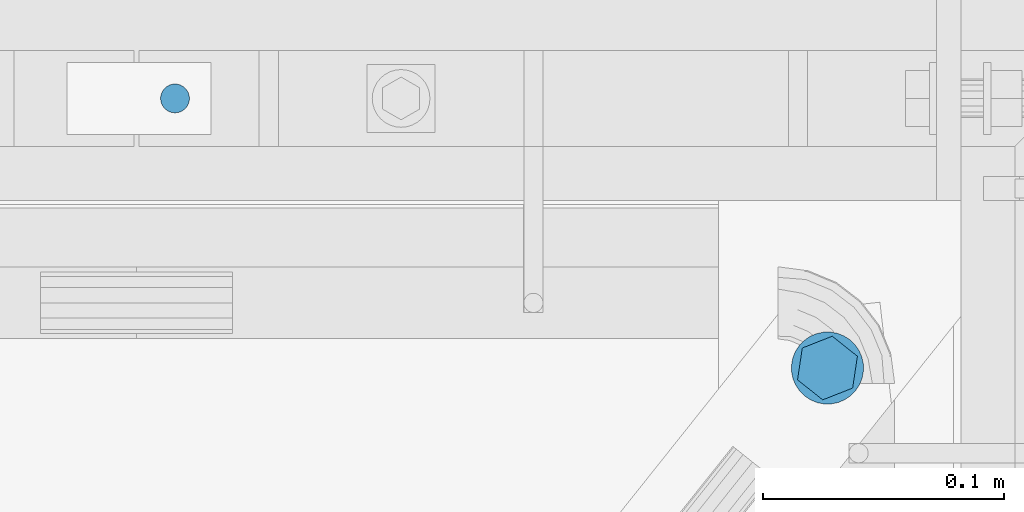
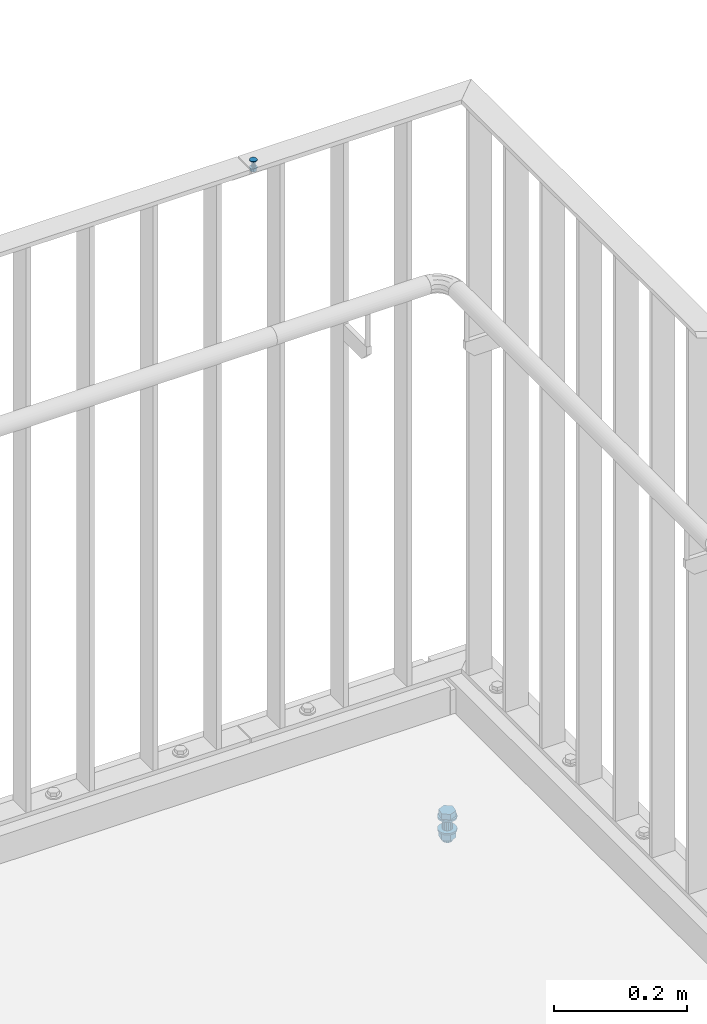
# One storey, part 131 of 145: 2 mechanical fasteners.
"""IFC2X3 building model written with IfcOpenShell, lengths in millimetres."""

from ifc_helpers import new_model, entity, si_unit, converted_unit, origin_with_axes, place, context, project, spatial, faceted_brep, element, save


model = new_model("IFC2X3")

# Units and contexts
model_context = context("Model", 3, precision=1e-09, world=origin_with_axes())
ifc_project = project(units=[si_unit("LENGTHUNIT", "METRE", prefix="MILLI"), si_unit("AREAUNIT", "SQUARE_METRE"), si_unit("VOLUMEUNIT", "CUBIC_METRE"), converted_unit("PLANEANGLEUNIT", "DEGREE", entity("IfcPlaneAngleMeasure", 0.01745329), si_unit("PLANEANGLEUNIT", "RADIAN"), dimensions=[0, 0, 0, 0, 0, 0, 0])], contexts=[model_context])

# Site, building, storey
site_placement = place(None, origin_with_axes())
site = spatial("IfcSite", under=ifc_project, at=site_placement, Name="BZ1 Grund- und Mittelschule 85716 Unterschlei?heim", CompositionType="ELEMENT")
building_placement = place(site_placement, origin_with_axes())
building = spatial("IfcBuilding", under=site, at=building_placement, Name="Struktur 1", CompositionType="ELEMENT")
storey_placement = place(building_placement, origin_with_axes())
storey = spatial("IfcBuildingStorey", under=building, at=storey_placement, Name="Default Storey", CompositionType="ELEMENT", Elevation=0.0)

# Mechanical fasteners
mechanical_fastener_1_placement = place(None, origin_with_axes())
element("IfcMechanicalFastener", 1, at=mechanical_fastener_1_placement, inside=storey, ObjectType="-", NominalDiameter=6.0, NominalLength=20.0, context=model_context, shape_type="Brep", body=[
    faceted_brep([(21244.141490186, -221.502, 2664.6363644), (21244.141490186, -221.502, 2663.6363644), (21242.970948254, -221.617288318, 2663.6363644), (21242.970948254, -221.617288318, 2664.6363644), (21241.845389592, -221.958722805, 2663.6363644), (21241.845389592, -221.958722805, 2664.6363644), (21240.808068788, -222.513182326, 2663.6363644), (21240.808068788, -222.513182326, 2664.6363644), (21239.898849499, -223.259359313, 2663.6363644), (21239.898849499, -223.259359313, 2664.6363644), (21239.152672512, -224.168578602, 2663.6363644), (21239.152672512, -224.168578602, 2664.6363644), (21238.598212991, -225.205899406, 2663.6363644), (21238.598212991, -225.205899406, 2664.6363644), (21238.256778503, -226.331458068, 2663.6363644), (21238.256778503, -226.331458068, 2664.6363644), (21238.141490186, -227.502, 2663.6363644), (21238.141490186, -227.502, 2664.6363644), (21238.256778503, -228.672541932, 2663.6363644), (21238.256778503, -228.672541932, 2664.6363644), (21238.598212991, -229.798100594, 2663.6363644), (21238.598212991, -229.798100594, 2664.6363644), (21239.152672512, -230.835421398, 2663.6363644), (21239.152672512, -230.835421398, 2664.6363644), (21239.898849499, -231.744640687, 2663.6363644), (21239.898849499, -231.744640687, 2664.6363644), (21240.808068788, -232.490817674, 2663.6363644), (21240.808068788, -232.490817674, 2664.6363644), (21241.845389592, -233.045277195, 2663.6363644), (21241.845389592, -233.045277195, 2664.6363644), (21242.970948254, -233.386711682, 2663.6363644), (21242.970948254, -233.386711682, 2664.6363644), (21244.141490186, -233.502, 2663.6363644), (21244.141490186, -233.502, 2664.6363644), (21245.312032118, -233.386711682, 2663.6363644), (21245.312032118, -233.386711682, 2664.6363644), (21246.43759078, -233.045277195, 2663.6363644), (21246.43759078, -233.045277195, 2664.6363644), (21247.474911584, -232.490817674, 2663.6363644), (21247.474911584, -232.490817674, 2664.6363644), (21248.384130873, -231.744640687, 2663.6363644), (21248.384130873, -231.744640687, 2664.6363644), (21249.13030786, -230.835421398, 2663.6363644), (21249.13030786, -230.835421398, 2664.6363644), (21249.684767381, -229.798100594, 2663.6363644), (21249.684767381, -229.798100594, 2664.6363644), (21250.026201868, -228.672541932, 2663.6363644), (21250.026201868, -228.672541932, 2664.6363644), (21250.141490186, -227.502, 2663.6363644), (21250.141490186, -227.502, 2664.6363644), (21250.026201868, -226.331458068, 2663.6363644), (21250.026201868, -226.331458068, 2664.6363644), (21249.684767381, -225.205899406, 2663.6363644), (21249.684767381, -225.205899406, 2664.6363644), (21249.13030786, -224.168578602, 2663.6363644), (21249.13030786, -224.168578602, 2664.6363644), (21248.384130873, -223.259359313, 2663.6363644), (21248.384130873, -223.259359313, 2664.6363644), (21247.474911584, -222.513182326, 2663.6363644), (21247.474911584, -222.513182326, 2664.6363644), (21246.43759078, -221.958722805, 2663.6363644), (21246.43759078, -221.958722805, 2664.6363644), (21245.312032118, -221.617288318, 2663.6363644), (21245.312032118, -221.617288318, 2664.6363644)], [[[0, 1, 2, 3]], [[3, 2, 4, 5]], [[5, 4, 6, 7]], [[7, 6, 8, 9]], [[9, 8, 10, 11]], [[11, 10, 12, 13]], [[13, 12, 14, 15]], [[15, 14, 16, 17]], [[17, 16, 18, 19]], [[19, 18, 20, 21]], [[21, 20, 22, 23]], [[23, 22, 24, 25]], [[25, 24, 26, 27]], [[27, 26, 28, 29]], [[29, 28, 30, 31]], [[31, 30, 32, 33]], [[33, 32, 34, 35]], [[35, 34, 36, 37]], [[37, 36, 38, 39]], [[39, 38, 40, 41]], [[41, 40, 42, 43]], [[43, 42, 44, 45]], [[45, 44, 46, 47]], [[47, 46, 48, 49]], [[49, 48, 50, 51]], [[51, 50, 52, 53]], [[53, 52, 54, 55]], [[55, 54, 56, 57]], [[57, 56, 58, 59]], [[59, 58, 60, 61]], [[61, 60, 62, 63]], [[63, 62, 1, 0]], [[0, 3, 5, 7, 9, 11, 13, 15, 17, 19, 21, 23, 25, 27, 29, 31, 33, 35, 37, 39, 41, 43, 45, 47, 49, 51, 53, 55, 57, 59, 61, 63]], [[1, 62, 60, 58, 56, 54, 52, 50, 48, 46, 44, 42, 40, 38, 36, 34, 32, 30, 28, 26, 24, 22, 20, 18, 16, 14, 12, 10, 8, 6, 4, 2]]]),
    faceted_brep([(21244.141490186, -224.502, 2663.6363644), (21244.141490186, -224.502, 2651.6363644), (21242.993439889, -224.730361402, 2651.6363644), (21242.993439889, -224.730361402, 2663.6363644), (21242.020169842, -225.380679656, 2651.6363644), (21242.020169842, -225.380679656, 2663.6363644), (21241.369851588, -226.353949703, 2651.6363644), (21241.369851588, -226.353949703, 2663.6363644), (21241.141490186, -227.502, 2651.6363644), (21241.141490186, -227.502, 2663.6363644), (21241.369851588, -228.650050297, 2651.6363644), (21241.369851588, -228.650050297, 2663.6363644), (21242.020169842, -229.623320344, 2651.6363644), (21242.020169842, -229.623320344, 2663.6363644), (21242.993439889, -230.273638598, 2651.6363644), (21242.993439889, -230.273638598, 2663.6363644), (21244.141490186, -230.502, 2651.6363644), (21244.141490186, -230.502, 2663.6363644), (21245.289540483, -230.273638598, 2651.6363644), (21245.289540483, -230.273638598, 2663.6363644), (21246.262810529, -229.623320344, 2651.6363644), (21246.262810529, -229.623320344, 2663.6363644), (21246.913128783, -228.650050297, 2651.6363644), (21246.913128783, -228.650050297, 2663.6363644), (21247.141490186, -227.502, 2651.6363644), (21247.141490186, -227.502, 2663.6363644), (21246.913128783, -226.353949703, 2651.6363644), (21246.913128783, -226.353949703, 2663.6363644), (21246.262810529, -225.380679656, 2651.6363644), (21246.262810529, -225.380679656, 2663.6363644), (21245.289540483, -224.730361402, 2651.6363644), (21245.289540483, -224.730361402, 2663.6363644)], [[[0, 1, 2, 3]], [[3, 2, 4, 5]], [[5, 4, 6, 7]], [[7, 6, 8, 9]], [[9, 8, 10, 11]], [[11, 10, 12, 13]], [[13, 12, 14, 15]], [[15, 14, 16, 17]], [[17, 16, 18, 19]], [[19, 18, 20, 21]], [[21, 20, 22, 23]], [[23, 22, 24, 25]], [[25, 24, 26, 27]], [[27, 26, 28, 29]], [[29, 28, 30, 31]], [[31, 30, 1, 0]], [[0, 3, 5, 7, 9, 11, 13, 15, 17, 19, 21, 23, 25, 27, 29, 31]], [[1, 30, 28, 26, 24, 22, 20, 18, 16, 14, 12, 10, 8, 6, 4, 2]]]),
    faceted_brep([(21244.141490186, -221.502, 2651.6363644), (21244.141490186, -221.502, 2650.0363644), (21242.970948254, -221.617288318, 2650.0363644), (21242.970948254, -221.617288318, 2651.6363644), (21241.845389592, -221.958722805, 2650.0363644), (21241.845389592, -221.958722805, 2651.6363644), (21240.808068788, -222.513182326, 2650.0363644), (21240.808068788, -222.513182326, 2651.6363644), (21239.898849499, -223.259359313, 2650.0363644), (21239.898849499, -223.259359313, 2651.6363644), (21239.152672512, -224.168578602, 2650.0363644), (21239.152672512, -224.168578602, 2651.6363644), (21238.598212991, -225.205899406, 2650.0363644), (21238.598212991, -225.205899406, 2651.6363644), (21238.256778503, -226.331458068, 2650.0363644), (21238.256778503, -226.331458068, 2651.6363644), (21238.141490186, -227.502, 2650.0363644), (21238.141490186, -227.502, 2651.6363644), (21238.256778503, -228.672541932, 2650.0363644), (21238.256778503, -228.672541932, 2651.6363644), (21238.598212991, -229.798100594, 2650.0363644), (21238.598212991, -229.798100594, 2651.6363644), (21239.152672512, -230.835421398, 2650.0363644), (21239.152672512, -230.835421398, 2651.6363644), (21239.898849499, -231.744640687, 2650.0363644), (21239.898849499, -231.744640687, 2651.6363644), (21240.808068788, -232.490817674, 2650.0363644), (21240.808068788, -232.490817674, 2651.6363644), (21241.845389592, -233.045277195, 2650.0363644), (21241.845389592, -233.045277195, 2651.6363644), (21242.970948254, -233.386711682, 2650.0363644), (21242.970948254, -233.386711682, 2651.6363644), (21244.141490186, -233.502, 2650.0363644), (21244.141490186, -233.502, 2651.6363644), (21245.312032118, -233.386711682, 2650.0363644), (21245.312032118, -233.386711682, 2651.6363644), (21246.43759078, -233.045277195, 2650.0363644), (21246.43759078, -233.045277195, 2651.6363644), (21247.474911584, -232.490817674, 2650.0363644), (21247.474911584, -232.490817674, 2651.6363644), (21248.384130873, -231.744640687, 2650.0363644), (21248.384130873, -231.744640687, 2651.6363644), (21249.13030786, -230.835421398, 2650.0363644), (21249.13030786, -230.835421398, 2651.6363644), (21249.684767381, -229.798100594, 2650.0363644), (21249.684767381, -229.798100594, 2651.6363644), (21250.026201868, -228.672541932, 2650.0363644), (21250.026201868, -228.672541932, 2651.6363644), (21250.141490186, -227.502, 2650.0363644), (21250.141490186, -227.502, 2651.6363644), (21250.026201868, -226.331458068, 2650.0363644), (21250.026201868, -226.331458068, 2651.6363644), (21249.684767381, -225.205899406, 2650.0363644), (21249.684767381, -225.205899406, 2651.6363644), (21249.13030786, -224.168578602, 2650.0363644), (21249.13030786, -224.168578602, 2651.6363644), (21248.384130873, -223.259359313, 2650.0363644), (21248.384130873, -223.259359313, 2651.6363644), (21247.474911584, -222.513182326, 2650.0363644), (21247.474911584, -222.513182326, 2651.6363644), (21246.43759078, -221.958722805, 2650.0363644), (21246.43759078, -221.958722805, 2651.6363644), (21245.312032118, -221.617288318, 2650.0363644), (21245.312032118, -221.617288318, 2651.6363644)], [[[0, 1, 2, 3]], [[3, 2, 4, 5]], [[5, 4, 6, 7]], [[7, 6, 8, 9]], [[9, 8, 10, 11]], [[11, 10, 12, 13]], [[13, 12, 14, 15]], [[15, 14, 16, 17]], [[17, 16, 18, 19]], [[19, 18, 20, 21]], [[21, 20, 22, 23]], [[23, 22, 24, 25]], [[25, 24, 26, 27]], [[27, 26, 28, 29]], [[29, 28, 30, 31]], [[31, 30, 32, 33]], [[33, 32, 34, 35]], [[35, 34, 36, 37]], [[37, 36, 38, 39]], [[39, 38, 40, 41]], [[41, 40, 42, 43]], [[43, 42, 44, 45]], [[45, 44, 46, 47]], [[47, 46, 48, 49]], [[49, 48, 50, 51]], [[51, 50, 52, 53]], [[53, 52, 54, 55]], [[55, 54, 56, 57]], [[57, 56, 58, 59]], [[59, 58, 60, 61]], [[61, 60, 62, 63]], [[63, 62, 1, 0]], [[0, 3, 5, 7, 9, 11, 13, 15, 17, 19, 21, 23, 25, 27, 29, 31, 33, 35, 37, 39, 41, 43, 45, 47, 49, 51, 53, 55, 57, 59, 61, 63]], [[1, 62, 60, 58, 56, 54, 52, 50, 48, 46, 44, 42, 40, 38, 36, 34, 32, 30, 28, 26, 24, 22, 20, 18, 16, 14, 12, 10, 8, 6, 4, 2]]]),
    faceted_brep([(21241.378990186, -232.286790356, 2645.0363644), (21241.378990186, -232.286790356, 2650.0363644), (21238.616490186, -227.502, 2650.0363644), (21238.616490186, -227.502, 2645.0363644), (21241.378990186, -222.717209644, 2650.0363644), (21241.378990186, -222.717209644, 2645.0363644), (21246.903990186, -222.717209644, 2650.0363644), (21246.903990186, -222.717209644, 2645.0363644), (21249.666490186, -227.502, 2650.0363644), (21249.666490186, -227.502, 2645.0363644), (21246.903990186, -232.286790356, 2650.0363644), (21246.903990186, -232.286790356, 2645.0363644)], [[[0, 1, 2, 3]], [[3, 2, 4, 5]], [[5, 4, 6, 7]], [[7, 6, 8, 9]], [[9, 8, 10, 11]], [[11, 10, 1, 0]], [[4, 2, 1, 10, 8, 6]], [[0, 3, 5, 7, 9, 11]]]),
    faceted_brep([(21244.141490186, -224.502, 2645.0363644), (21244.141490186, -224.502, 2643.6363644), (21242.993439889, -224.730361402, 2643.6363644), (21242.993439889, -224.730361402, 2645.0363644), (21242.020169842, -225.380679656, 2643.6363644), (21242.020169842, -225.380679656, 2645.0363644), (21241.369851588, -226.353949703, 2643.6363644), (21241.369851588, -226.353949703, 2645.0363644), (21241.141490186, -227.502, 2643.6363644), (21241.141490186, -227.502, 2645.0363644), (21241.369851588, -228.650050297, 2643.6363644), (21241.369851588, -228.650050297, 2645.0363644), (21242.020169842, -229.623320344, 2643.6363644), (21242.020169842, -229.623320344, 2645.0363644), (21242.993439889, -230.273638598, 2643.6363644), (21242.993439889, -230.273638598, 2645.0363644), (21244.141490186, -230.502, 2643.6363644), (21244.141490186, -230.502, 2645.0363644), (21245.289540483, -230.273638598, 2643.6363644), (21245.289540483, -230.273638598, 2645.0363644), (21246.262810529, -229.623320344, 2643.6363644), (21246.262810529, -229.623320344, 2645.0363644), (21246.913128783, -228.650050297, 2643.6363644), (21246.913128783, -228.650050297, 2645.0363644), (21247.141490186, -227.502, 2643.6363644), (21247.141490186, -227.502, 2645.0363644), (21246.913128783, -226.353949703, 2643.6363644), (21246.913128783, -226.353949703, 2645.0363644), (21246.262810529, -225.380679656, 2643.6363644), (21246.262810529, -225.380679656, 2645.0363644), (21245.289540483, -224.730361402, 2643.6363644), (21245.289540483, -224.730361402, 2645.0363644)], [[[0, 1, 2, 3]], [[3, 2, 4, 5]], [[5, 4, 6, 7]], [[7, 6, 8, 9]], [[9, 8, 10, 11]], [[11, 10, 12, 13]], [[13, 12, 14, 15]], [[15, 14, 16, 17]], [[17, 16, 18, 19]], [[19, 18, 20, 21]], [[21, 20, 22, 23]], [[23, 22, 24, 25]], [[25, 24, 26, 27]], [[27, 26, 28, 29]], [[29, 28, 30, 31]], [[31, 30, 1, 0]], [[0, 3, 5, 7, 9, 11, 13, 15, 17, 19, 21, 23, 25, 27, 29, 31]], [[1, 30, 28, 26, 24, 22, 20, 18, 16, 14, 12, 10, 8, 6, 4, 2]]]),
])
mechanical_fastener_2_placement = place(None, origin_with_axes())
element("IfcMechanicalFastener", 2, at=mechanical_fastener_2_placement, inside=storey, ObjectType="-", NominalDiameter=16.0, NominalLength=45.0, context=model_context, shape_type="Brep", body=[
    faceted_brep([(21524.759757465, -327.861984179, 1436.6363644), (21524.759757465, -327.861984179, 1433.6363644), (21522.291178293, -326.264254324, 1433.6363644), (21522.291178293, -326.264254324, 1436.6363644), (21519.558330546, -325.178820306, 1433.6363644), (21519.558330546, -325.178820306, 1436.6363644), (21516.666236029, -324.647394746, 1433.6363644), (21516.666236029, -324.647394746, 1436.6363644), (21513.726036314, -324.690400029, 1433.6363644), (21513.726036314, -324.690400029, 1436.6363644), (21510.850721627, -325.306183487, 1433.6363644), (21510.850721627, -325.306183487, 1436.6363644), (21508.150788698, -326.471080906, 1433.6363644), (21508.150788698, -326.471080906, 1436.6363644), (21505.729994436, -328.140325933, 1433.6363644), (21505.729994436, -328.140325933, 1436.6363644), (21503.681368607, -330.249770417, 1433.6363644), (21503.681368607, -330.249770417, 1436.6363644), (21502.083638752, -332.718349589, 1433.6363644), (21502.083638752, -332.718349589, 1436.6363644), (21500.998204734, -335.451197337, 1433.6363644), (21500.998204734, -335.451197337, 1436.6363644), (21500.466779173, -338.343291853, 1433.6363644), (21500.466779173, -338.343291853, 1436.6363644), (21500.509784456, -341.283491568, 1433.6363644), (21500.509784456, -341.283491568, 1436.6363644), (21501.125567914, -344.158806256, 1433.6363644), (21501.125567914, -344.158806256, 1436.6363644), (21502.290465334, -346.858739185, 1433.6363644), (21502.290465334, -346.858739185, 1436.6363644), (21503.959710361, -349.279533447, 1433.6363644), (21503.959710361, -349.279533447, 1436.6363644), (21506.069154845, -351.328159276, 1433.6363644), (21506.069154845, -351.328159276, 1436.6363644), (21508.537734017, -352.925889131, 1433.6363644), (21508.537734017, -352.925889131, 1436.6363644), (21511.270581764, -354.011323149, 1433.6363644), (21511.270581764, -354.011323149, 1436.6363644), (21514.162676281, -354.542748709, 1433.6363644), (21514.162676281, -354.542748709, 1436.6363644), (21517.102875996, -354.499743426, 1433.6363644), (21517.102875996, -354.499743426, 1436.6363644), (21519.978190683, -353.883959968, 1433.6363644), (21519.978190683, -353.883959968, 1436.6363644), (21522.678123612, -352.719062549, 1433.6363644), (21522.678123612, -352.719062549, 1436.6363644), (21525.098917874, -351.049817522, 1433.6363644), (21525.098917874, -351.049817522, 1436.6363644), (21527.147543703, -348.940373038, 1433.6363644), (21527.147543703, -348.940373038, 1436.6363644), (21528.745273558, -346.471793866, 1433.6363644), (21528.745273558, -346.471793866, 1436.6363644), (21529.830707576, -343.738946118, 1433.6363644), (21529.830707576, -343.738946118, 1436.6363644), (21530.362133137, -340.846851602, 1433.6363644), (21530.362133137, -340.846851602, 1436.6363644), (21530.319127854, -337.906651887, 1433.6363644), (21530.319127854, -337.906651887, 1436.6363644), (21529.703344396, -335.031337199, 1433.6363644), (21529.703344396, -335.031337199, 1436.6363644), (21528.538446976, -332.33140427, 1433.6363644), (21528.538446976, -332.33140427, 1436.6363644), (21526.869201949, -329.910610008, 1433.6363644), (21526.869201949, -329.910610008, 1436.6363644)], [[[0, 1, 2, 3]], [[3, 2, 4, 5]], [[5, 4, 6, 7]], [[7, 6, 8, 9]], [[9, 8, 10, 11]], [[11, 10, 12, 13]], [[13, 12, 14, 15]], [[15, 14, 16, 17]], [[17, 16, 18, 19]], [[19, 18, 20, 21]], [[21, 20, 22, 23]], [[23, 22, 24, 25]], [[25, 24, 26, 27]], [[27, 26, 28, 29]], [[29, 28, 30, 31]], [[31, 30, 32, 33]], [[33, 32, 34, 35]], [[35, 34, 36, 37]], [[37, 36, 38, 39]], [[39, 38, 40, 41]], [[41, 40, 42, 43]], [[43, 42, 44, 45]], [[45, 44, 46, 47]], [[47, 46, 48, 49]], [[49, 48, 50, 51]], [[51, 50, 52, 53]], [[53, 52, 54, 55]], [[55, 54, 56, 57]], [[57, 56, 58, 59]], [[59, 58, 60, 61]], [[61, 60, 62, 63]], [[63, 62, 1, 0]], [[0, 3, 5, 7, 9, 11, 13, 15, 17, 19, 21, 23, 25, 27, 29, 31, 33, 35, 37, 39, 41, 43, 45, 47, 49, 51, 53, 55, 57, 59, 61, 63]], [[1, 62, 60, 58, 56, 54, 52, 50, 48, 46, 44, 42, 40, 38, 36, 34, 32, 30, 28, 26, 24, 22, 20, 18, 16, 14, 12, 10, 8, 6, 4, 2]]]),
    faceted_brep([(21502.966957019, -344.488985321, 1436.6363644), (21502.966957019, -344.488985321, 1446.6363644), (21504.952453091, -331.262178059, 1446.6363644), (21504.952453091, -331.262178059, 1436.6363644), (21517.399952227, -326.368264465, 1446.6363644), (21517.399952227, -326.368264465, 1436.6363644), (21527.861955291, -334.701158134, 1446.6363644), (21527.861955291, -334.701158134, 1436.6363644), (21525.876459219, -347.927965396, 1446.6363644), (21525.876459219, -347.927965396, 1436.6363644), (21513.428960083, -352.82187899, 1446.6363644), (21513.428960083, -352.82187899, 1436.6363644)], [[[0, 1, 2, 3]], [[3, 2, 4, 5]], [[5, 4, 6, 7]], [[7, 6, 8, 9]], [[9, 8, 10, 11]], [[11, 10, 1, 0]], [[4, 2, 1, 10, 8, 6]], [[0, 3, 5, 7, 9, 11]]]),
    faceted_brep([(21520.398616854, -333.337425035, 1433.6363644), (21520.398616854, -333.337425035, 1413.6363644), (21517.624522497, -331.906404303, 1413.6363644), (21517.624522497, -331.906404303, 1433.6363644), (21514.513965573, -331.645913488, 1413.6363644), (21514.513965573, -331.645913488, 1433.6363644), (21511.540500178, -332.595609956, 1413.6363644), (21511.540500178, -332.595609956, 1433.6363644), (21509.156809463, -334.610911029, 1413.6363644), (21509.156809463, -334.610911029, 1433.6363644), (21507.72578873, -337.385005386, 1413.6363644), (21507.72578873, -337.385005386, 1433.6363644), (21507.465297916, -340.495562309, 1413.6363644), (21507.465297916, -340.495562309, 1433.6363644), (21508.414994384, -343.469027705, 1413.6363644), (21508.414994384, -343.469027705, 1433.6363644), (21510.430295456, -345.85271842, 1413.6363644), (21510.430295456, -345.85271842, 1433.6363644), (21513.204389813, -347.283739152, 1413.6363644), (21513.204389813, -347.283739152, 1433.6363644), (21516.314946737, -347.544229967, 1413.6363644), (21516.314946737, -347.544229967, 1433.6363644), (21519.288412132, -346.594533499, 1413.6363644), (21519.288412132, -346.594533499, 1433.6363644), (21521.672102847, -344.579232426, 1413.6363644), (21521.672102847, -344.579232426, 1433.6363644), (21523.10312358, -341.805138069, 1413.6363644), (21523.10312358, -341.805138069, 1433.6363644), (21523.363614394, -338.694581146, 1413.6363644), (21523.363614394, -338.694581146, 1433.6363644), (21522.413917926, -335.72111575, 1413.6363644), (21522.413917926, -335.72111575, 1433.6363644)], [[[0, 1, 2, 3]], [[3, 2, 4, 5]], [[5, 4, 6, 7]], [[7, 6, 8, 9]], [[9, 8, 10, 11]], [[11, 10, 12, 13]], [[13, 12, 14, 15]], [[15, 14, 16, 17]], [[17, 16, 18, 19]], [[19, 18, 20, 21]], [[21, 20, 22, 23]], [[23, 22, 24, 25]], [[25, 24, 26, 27]], [[27, 26, 28, 29]], [[29, 28, 30, 31]], [[31, 30, 1, 0]], [[0, 3, 5, 7, 9, 11, 13, 15, 17, 19, 21, 23, 25, 27, 29, 31]], [[1, 30, 28, 26, 24, 22, 20, 18, 16, 14, 12, 10, 8, 6, 4, 2]]]),
    faceted_brep([(21524.759757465, -327.861984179, 1413.6363644), (21524.759757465, -327.861984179, 1410.6363644), (21522.291178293, -326.264254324, 1410.6363644), (21522.291178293, -326.264254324, 1413.6363644), (21519.558330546, -325.178820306, 1410.6363644), (21519.558330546, -325.178820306, 1413.6363644), (21516.666236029, -324.647394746, 1410.6363644), (21516.666236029, -324.647394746, 1413.6363644), (21513.726036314, -324.690400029, 1410.6363644), (21513.726036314, -324.690400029, 1413.6363644), (21510.850721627, -325.306183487, 1410.6363644), (21510.850721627, -325.306183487, 1413.6363644), (21508.150788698, -326.471080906, 1410.6363644), (21508.150788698, -326.471080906, 1413.6363644), (21505.729994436, -328.140325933, 1410.6363644), (21505.729994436, -328.140325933, 1413.6363644), (21503.681368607, -330.249770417, 1410.6363644), (21503.681368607, -330.249770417, 1413.6363644), (21502.083638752, -332.718349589, 1410.6363644), (21502.083638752, -332.718349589, 1413.6363644), (21500.998204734, -335.451197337, 1410.6363644), (21500.998204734, -335.451197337, 1413.6363644), (21500.466779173, -338.343291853, 1410.6363644), (21500.466779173, -338.343291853, 1413.6363644), (21500.509784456, -341.283491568, 1410.6363644), (21500.509784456, -341.283491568, 1413.6363644), (21501.125567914, -344.158806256, 1410.6363644), (21501.125567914, -344.158806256, 1413.6363644), (21502.290465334, -346.858739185, 1410.6363644), (21502.290465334, -346.858739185, 1413.6363644), (21503.959710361, -349.279533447, 1410.6363644), (21503.959710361, -349.279533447, 1413.6363644), (21506.069154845, -351.328159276, 1410.6363644), (21506.069154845, -351.328159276, 1413.6363644), (21508.537734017, -352.925889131, 1410.6363644), (21508.537734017, -352.925889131, 1413.6363644), (21511.270581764, -354.011323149, 1410.6363644), (21511.270581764, -354.011323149, 1413.6363644), (21514.162676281, -354.542748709, 1410.6363644), (21514.162676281, -354.542748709, 1413.6363644), (21517.102875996, -354.499743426, 1410.6363644), (21517.102875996, -354.499743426, 1413.6363644), (21519.978190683, -353.883959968, 1410.6363644), (21519.978190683, -353.883959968, 1413.6363644), (21522.678123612, -352.719062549, 1410.6363644), (21522.678123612, -352.719062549, 1413.6363644), (21525.098917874, -351.049817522, 1410.6363644), (21525.098917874, -351.049817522, 1413.6363644), (21527.147543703, -348.940373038, 1410.6363644), (21527.147543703, -348.940373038, 1413.6363644), (21528.745273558, -346.471793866, 1410.6363644), (21528.745273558, -346.471793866, 1413.6363644), (21529.830707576, -343.738946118, 1410.6363644), (21529.830707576, -343.738946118, 1413.6363644), (21530.362133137, -340.846851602, 1410.6363644), (21530.362133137, -340.846851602, 1413.6363644), (21530.319127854, -337.906651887, 1410.6363644), (21530.319127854, -337.906651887, 1413.6363644), (21529.703344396, -335.031337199, 1410.6363644), (21529.703344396, -335.031337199, 1413.6363644), (21528.538446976, -332.33140427, 1410.6363644), (21528.538446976, -332.33140427, 1413.6363644), (21526.869201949, -329.910610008, 1410.6363644), (21526.869201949, -329.910610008, 1413.6363644)], [[[0, 1, 2, 3]], [[3, 2, 4, 5]], [[5, 4, 6, 7]], [[7, 6, 8, 9]], [[9, 8, 10, 11]], [[11, 10, 12, 13]], [[13, 12, 14, 15]], [[15, 14, 16, 17]], [[17, 16, 18, 19]], [[19, 18, 20, 21]], [[21, 20, 22, 23]], [[23, 22, 24, 25]], [[25, 24, 26, 27]], [[27, 26, 28, 29]], [[29, 28, 30, 31]], [[31, 30, 32, 33]], [[33, 32, 34, 35]], [[35, 34, 36, 37]], [[37, 36, 38, 39]], [[39, 38, 40, 41]], [[41, 40, 42, 43]], [[43, 42, 44, 45]], [[45, 44, 46, 47]], [[47, 46, 48, 49]], [[49, 48, 50, 51]], [[51, 50, 52, 53]], [[53, 52, 54, 55]], [[55, 54, 56, 57]], [[57, 56, 58, 59]], [[59, 58, 60, 61]], [[61, 60, 62, 63]], [[63, 62, 1, 0]], [[0, 3, 5, 7, 9, 11, 13, 15, 17, 19, 21, 23, 25, 27, 29, 31, 33, 35, 37, 39, 41, 43, 45, 47, 49, 51, 53, 55, 57, 59, 61, 63]], [[1, 62, 60, 58, 56, 54, 52, 50, 48, 46, 44, 42, 40, 38, 36, 34, 32, 30, 28, 26, 24, 22, 20, 18, 16, 14, 12, 10, 8, 6, 4, 2]]]),
    faceted_brep([(21502.966957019, -344.488985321, 1397.6363644), (21502.966957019, -344.488985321, 1410.6363644), (21504.952453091, -331.262178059, 1410.6363644), (21504.952453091, -331.262178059, 1397.6363644), (21517.399952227, -326.368264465, 1410.6363644), (21517.399952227, -326.368264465, 1397.6363644), (21527.861955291, -334.701158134, 1410.6363644), (21527.861955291, -334.701158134, 1397.6363644), (21525.876459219, -347.927965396, 1410.6363644), (21525.876459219, -347.927965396, 1397.6363644), (21513.428960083, -352.82187899, 1410.6363644), (21513.428960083, -352.82187899, 1397.6363644)], [[[0, 1, 2, 3]], [[3, 2, 4, 5]], [[5, 4, 6, 7]], [[7, 6, 8, 9]], [[9, 8, 10, 11]], [[11, 10, 1, 0]], [[4, 2, 1, 10, 8, 6]], [[0, 3, 5, 7, 9, 11]]]),
    faceted_brep([(21520.398616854, -333.337425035, 1397.6363644), (21520.398616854, -333.337425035, 1391.6363644), (21517.624522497, -331.906404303, 1391.6363644), (21517.624522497, -331.906404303, 1397.6363644), (21514.513965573, -331.645913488, 1391.6363644), (21514.513965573, -331.645913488, 1397.6363644), (21511.540500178, -332.595609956, 1391.6363644), (21511.540500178, -332.595609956, 1397.6363644), (21509.156809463, -334.610911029, 1391.6363644), (21509.156809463, -334.610911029, 1397.6363644), (21507.72578873, -337.385005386, 1391.6363644), (21507.72578873, -337.385005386, 1397.6363644), (21507.465297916, -340.495562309, 1391.6363644), (21507.465297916, -340.495562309, 1397.6363644), (21508.414994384, -343.469027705, 1391.6363644), (21508.414994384, -343.469027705, 1397.6363644), (21510.430295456, -345.85271842, 1391.6363644), (21510.430295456, -345.85271842, 1397.6363644), (21513.204389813, -347.283739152, 1391.6363644), (21513.204389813, -347.283739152, 1397.6363644), (21516.314946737, -347.544229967, 1391.6363644), (21516.314946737, -347.544229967, 1397.6363644), (21519.288412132, -346.594533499, 1391.6363644), (21519.288412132, -346.594533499, 1397.6363644), (21521.672102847, -344.579232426, 1391.6363644), (21521.672102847, -344.579232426, 1397.6363644), (21523.10312358, -341.805138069, 1391.6363644), (21523.10312358, -341.805138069, 1397.6363644), (21523.363614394, -338.694581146, 1391.6363644), (21523.363614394, -338.694581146, 1397.6363644), (21522.413917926, -335.72111575, 1391.6363644), (21522.413917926, -335.72111575, 1397.6363644)], [[[0, 1, 2, 3]], [[3, 2, 4, 5]], [[5, 4, 6, 7]], [[7, 6, 8, 9]], [[9, 8, 10, 11]], [[11, 10, 12, 13]], [[13, 12, 14, 15]], [[15, 14, 16, 17]], [[17, 16, 18, 19]], [[19, 18, 20, 21]], [[21, 20, 22, 23]], [[23, 22, 24, 25]], [[25, 24, 26, 27]], [[27, 26, 28, 29]], [[29, 28, 30, 31]], [[31, 30, 1, 0]], [[0, 3, 5, 7, 9, 11, 13, 15, 17, 19, 21, 23, 25, 27, 29, 31]], [[1, 30, 28, 26, 24, 22, 20, 18, 16, 14, 12, 10, 8, 6, 4, 2]]]),
])

save(model, "model.ifc")
